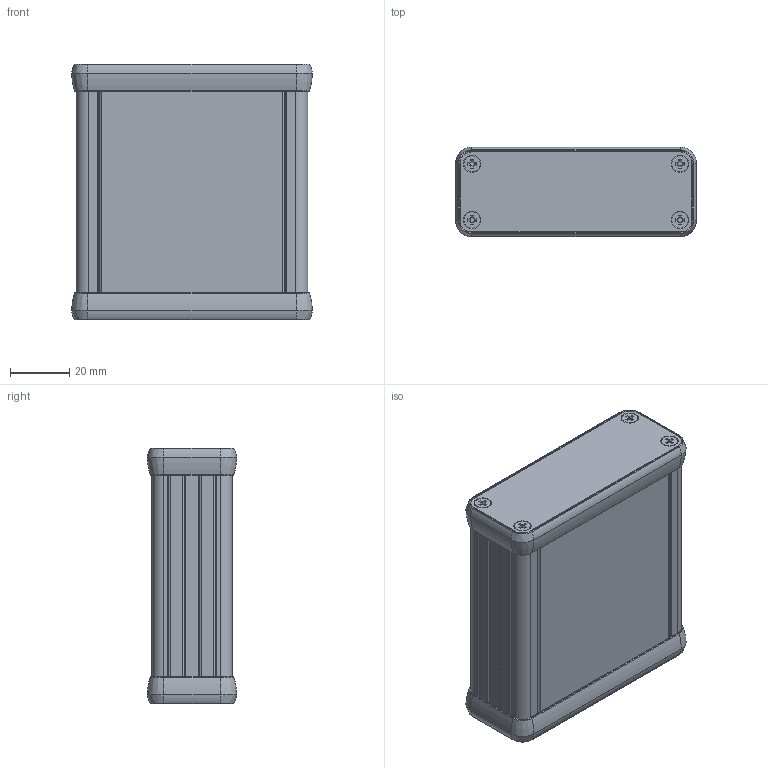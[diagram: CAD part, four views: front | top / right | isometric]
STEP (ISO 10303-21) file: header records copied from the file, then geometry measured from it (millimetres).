
FILE_DESCRIPTION(/* description */ (''),/* implementation_level */ '2;1');
FILE_NAME(/* name */ '1455J801.stp',/* time_stamp */ '2025-09-19T07:49:17-04:00',/* author */ ('tfoster'),/* organization */ (''),/* preprocessor_version */ 'ST-DEVELOPER v20.1',/* originating_system */ 'Autodesk Inventor 2026',/* authorisation */ '');
FILE_SCHEMA (('AUTOMOTIVE_DESIGN { 1 0 10303 214 3 1 1 }'));
Length unit declared in the file: millimetre
Products named in the file (6): 1455J1801; J Channel Extrusion 80mm; J Cap Extrusion 80mm; K Bezel; K1 End Panel; 1455 screw
Assembly tree (14 placements, depth 2):
  1455J1801
    J Channel Extrusion 80mm
    J Cap Extrusion 80mm
    K Bezel  x2
    K1 End Panel  x2
    1455 screw  x8
Bounding box: 81.13 x 30.13 x 86 mm (x, y, z)
Volume: 44474.1 mm3; surface area: 59500.9 mm2
Topology: 14 solids, 14 shells, 592 faces, 1576 edges, 1024 vertices
Faces by surface type: cylinder 268, plane 228, cone 56, torus 24, bspline 16
Full cylindrical faces by diameter (mm): 3.5 x16, 4.191 x8
Entity records: 12102 total; most frequent: DIRECTION 2197, CARTESIAN_POINT 2125, ORIENTED_EDGE 2008, EDGE_CURVE 1004, AXIS2_PLACEMENT_3D 829, VERTEX_POINT 657, LINE 539, VECTOR 539
